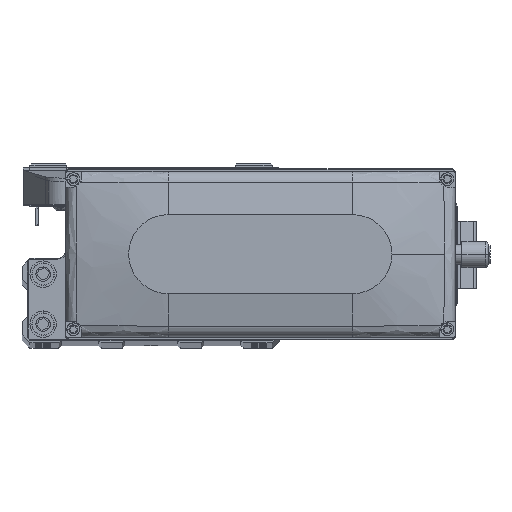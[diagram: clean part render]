
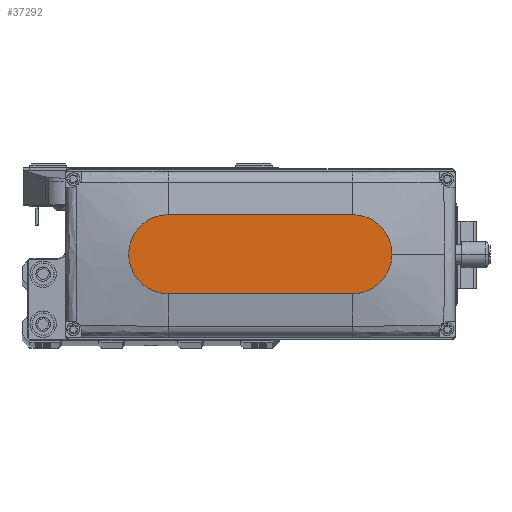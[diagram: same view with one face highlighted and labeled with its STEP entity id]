
A CAD part, top view. The second image highlights one B-rep face of the part: STEP entity #37292.
In plain terms, the highlighted planar face has unit normal (0, 0, 1).
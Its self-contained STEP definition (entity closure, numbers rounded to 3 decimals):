
#187 = CARTESIAN_POINT ( 'NONE',  ( 0., 0., 35. ) ) ;
#1196 = DIRECTION ( 'NONE',  ( 1., 0., 0. ) ) ;
#1771 = DIRECTION ( 'NONE',  ( 1., 0., 0. ) ) ;
#2071 = CARTESIAN_POINT ( 'NONE',  ( -35., -15., 35. ) ) ;
#2649 = VERTEX_POINT ( 'NONE', #40422 ) ;
#3841 = VECTOR ( 'NONE', #46627, 1000. ) ;
#4663 = VERTEX_POINT ( 'NONE', #35357 ) ;
#5474 = ORIENTED_EDGE ( 'NONE', *, *, #14558, .T. ) ;
#5775 = CIRCLE ( 'NONE', #33746, 15. ) ;
#6512 = AXIS2_PLACEMENT_3D ( 'NONE', #25776, #41035, #6772 ) ;
#6772 = DIRECTION ( 'NONE',  ( 1., 0., 0. ) ) ;
#7552 = CARTESIAN_POINT ( 'NONE',  ( -35., -15., 35. ) ) ;
#8156 = VECTOR ( 'NONE', #22810, 1000. ) ;
#9665 = AXIS2_PLACEMENT_3D ( 'NONE', #187, #15460, #30713 ) ;
#11963 = ORIENTED_EDGE ( 'NONE', *, *, #12435, .T. ) ;
#12427 = ORIENTED_EDGE ( 'NONE', *, *, #37110, .T. ) ;
#12435 = EDGE_CURVE ( 'NONE', #4663, #2649, #19972, .T. ) ;
#13066 = VERTEX_POINT ( 'NONE', #29141 ) ;
#14558 = EDGE_CURVE ( 'NONE', #36680, #4663, #41813, .T. ) ;
#15460 = DIRECTION ( 'NONE',  ( 0., 0., 1. ) ) ;
#15894 = EDGE_LOOP ( 'NONE', ( #25614, #12427, #5474, #11963, #22113 ) ) ;
#16133 = LINE ( 'NONE', #31389, #3841 ) ;
#19216 = FACE_OUTER_BOUND ( 'NONE', #15894, .T. ) ;
#19972 = CIRCLE ( 'NONE', #47894, 15. ) ;
#20244 = CARTESIAN_POINT ( 'NONE',  ( 35., 0., 35. ) ) ;
#20801 = CARTESIAN_POINT ( 'NONE',  ( -35., 0., 35. ) ) ;
#22113 = ORIENTED_EDGE ( 'NONE', *, *, #44808, .T. ) ;
#22810 = DIRECTION ( 'NONE',  ( 1., 0., 0. ) ) ;
#25614 = ORIENTED_EDGE ( 'NONE', *, *, #28491, .T. ) ;
#25776 = CARTESIAN_POINT ( 'NONE',  ( 35., 0., 35. ) ) ;
#28075 = CIRCLE ( 'NONE', #6512, 15. ) ;
#28491 = EDGE_CURVE ( 'NONE', #13066, #40053, #16133, .T. ) ;
#29141 = CARTESIAN_POINT ( 'NONE',  ( 35., 15., 35. ) ) ;
#29371 = CARTESIAN_POINT ( 'NONE',  ( -35., 15., 35. ) ) ;
#30713 = DIRECTION ( 'NONE',  ( 1., 0., 0. ) ) ;
#31389 = CARTESIAN_POINT ( 'NONE',  ( -35., 15., 35. ) ) ;
#33746 = AXIS2_PLACEMENT_3D ( 'NONE', #20801, #36048, #1771 ) ;
#34459 = PLANE ( 'NONE',  #9665 ) ;
#35357 = CARTESIAN_POINT ( 'NONE',  ( 35., -15., 35. ) ) ;
#35489 = DIRECTION ( 'NONE',  ( 0., 0., 1. ) ) ;
#36048 = DIRECTION ( 'NONE',  ( 0., 0., 1. ) ) ;
#36680 = VERTEX_POINT ( 'NONE', #2071 ) ;
#37110 = EDGE_CURVE ( 'NONE', #40053, #36680, #5775, .T. ) ;
#37292 = ADVANCED_FACE ( 'NONE', ( #19216 ), #34459, .T. ) ;
#40053 = VERTEX_POINT ( 'NONE', #29371 ) ;
#40422 = CARTESIAN_POINT ( 'NONE',  ( 50., 0., 35. ) ) ;
#41035 = DIRECTION ( 'NONE',  ( 0., 0., 1. ) ) ;
#41813 = LINE ( 'NONE', #7552, #8156 ) ;
#44808 = EDGE_CURVE ( 'NONE', #2649, #13066, #28075, .T. ) ;
#46627 = DIRECTION ( 'NONE',  ( -1., 0., 0. ) ) ;
#47894 = AXIS2_PLACEMENT_3D ( 'NONE', #20244, #35489, #1196 ) ;
